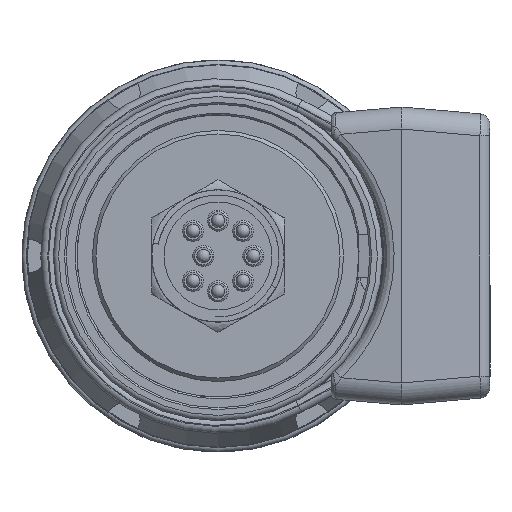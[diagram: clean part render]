
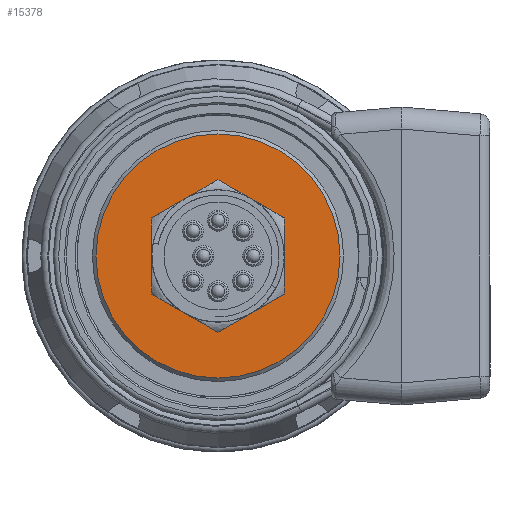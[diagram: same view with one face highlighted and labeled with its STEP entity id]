
A CAD part, left-side view. The second image highlights one B-rep face of the part: STEP entity #15378.
In plain terms, the highlighted planar face has unit normal (-1, 0, 0).
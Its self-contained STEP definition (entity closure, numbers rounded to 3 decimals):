
#1031 = FACE_BOUND ( 'NONE', #18117, .T. ) ;
#2395 = DIRECTION ( 'NONE',  ( 1., 0., 0. ) ) ;
#4029 = CIRCLE ( 'NONE', #46127, 17.551 ) ;
#6065 = CARTESIAN_POINT ( 'NONE',  ( -24.663, 5.753, 0. ) ) ;
#7259 = EDGE_CURVE ( 'NONE', #42037, #42037, #4029, .T. ) ;
#8972 = DIRECTION ( 'NONE',  ( -1., 0., 0. ) ) ;
#13667 = EDGE_CURVE ( 'NONE', #17761, #17761, #24371, .T. ) ;
#13876 = DIRECTION ( 'NONE',  ( 0., 1., 0. ) ) ;
#15378 = ADVANCED_FACE ( 'NONE', ( #1031, #23285 ), #34819, .T. ) ;
#17761 = VERTEX_POINT ( 'NONE', #6065 ) ;
#18117 = EDGE_LOOP ( 'NONE', ( #43538 ) ) ;
#19692 = DIRECTION ( 'NONE',  ( 0., 0., 1. ) ) ;
#20542 = AXIS2_PLACEMENT_3D ( 'NONE', #28565, #2395, #13876 ) ;
#23285 = FACE_OUTER_BOUND ( 'NONE', #38031, .T. ) ;
#23531 = CARTESIAN_POINT ( 'NONE',  ( -24.663, 0., 0. ) ) ;
#23884 = ORIENTED_EDGE ( 'NONE', *, *, #7259, .T. ) ;
#24042 = CARTESIAN_POINT ( 'NONE',  ( -24.663, 0., 17.551 ) ) ;
#24371 = CIRCLE ( 'NONE', #20542, 5.753 ) ;
#28565 = CARTESIAN_POINT ( 'NONE',  ( -24.663, 0., 0. ) ) ;
#34652 = CARTESIAN_POINT ( 'NONE',  ( -24.663, 0., 0. ) ) ;
#34819 = PLANE ( 'NONE',  #38144 ) ;
#37980 = DIRECTION ( 'NONE',  ( 0., 0., 1. ) ) ;
#38031 = EDGE_LOOP ( 'NONE', ( #23884 ) ) ;
#38144 = AXIS2_PLACEMENT_3D ( 'NONE', #23531, #41494, #19692 ) ;
#41494 = DIRECTION ( 'NONE',  ( -1., 0., 0. ) ) ;
#42037 = VERTEX_POINT ( 'NONE', #24042 ) ;
#43538 = ORIENTED_EDGE ( 'NONE', *, *, #13667, .T. ) ;
#46127 = AXIS2_PLACEMENT_3D ( 'NONE', #34652, #8972, #37980 ) ;
